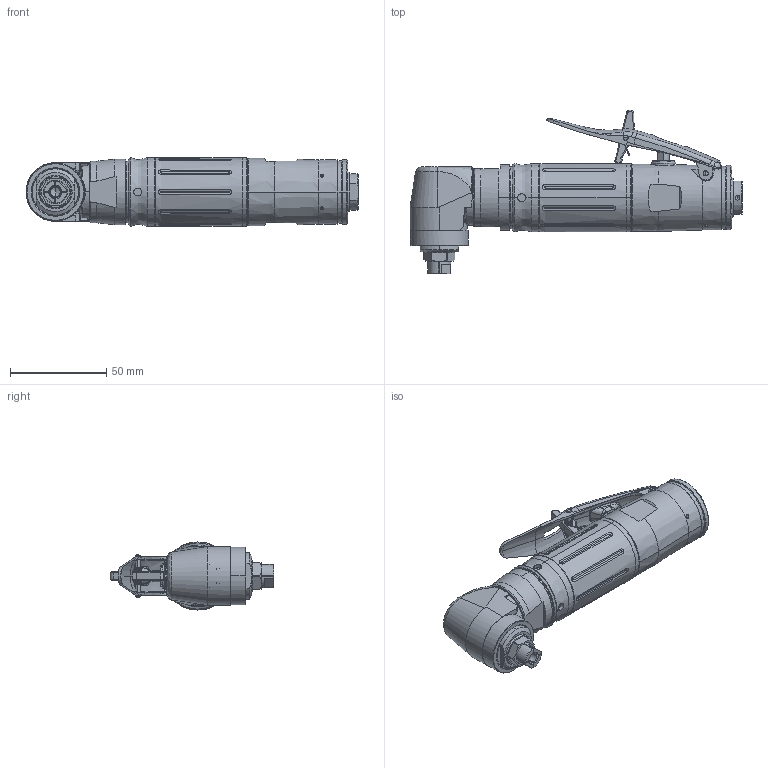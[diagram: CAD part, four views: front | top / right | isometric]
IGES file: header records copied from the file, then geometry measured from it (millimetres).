
Start section:  PTC IGES file: 6151705220.igs
Global section: file name: 6151705220.igs; native system: Creo Parametric by PTC Inc.; preprocessor: 2017020; author: greextsd; organization: Unknown; date: 20170515.165533; units: millimetre
Bounding box: 172.35 x 84.95 x 35.4 mm (x, y, z)
Volume: 86351.4 mm3; surface area: 61243.9 mm2
Topology: 6 solids, 6 shells, 1649 faces, 4394 edges, 2679 vertices
Faces by surface type: revolution 964, bspline 685
